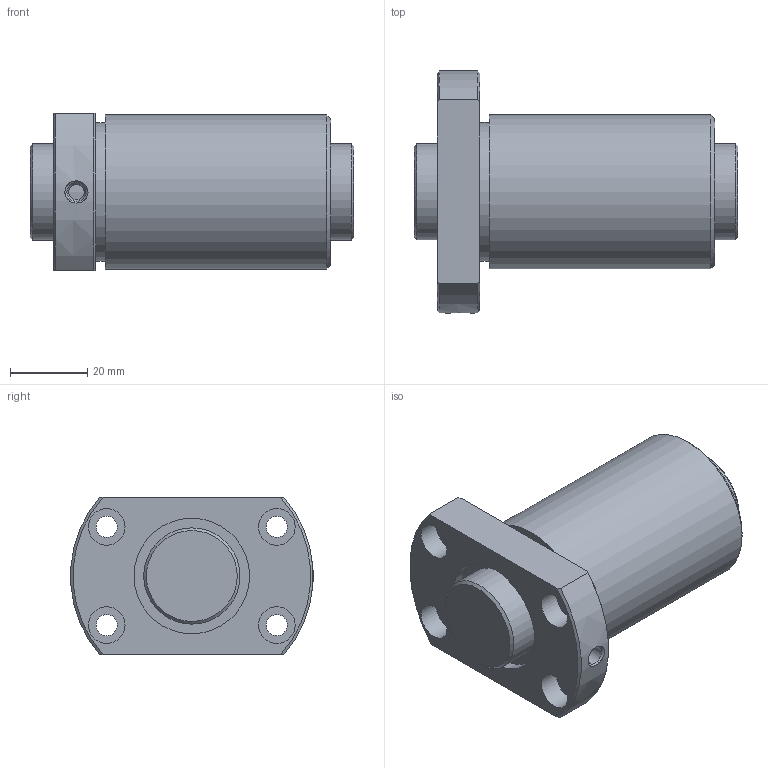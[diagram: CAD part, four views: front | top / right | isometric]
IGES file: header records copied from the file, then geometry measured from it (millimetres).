
Start section: Data from Parasolid IGES Translator 26.0.171, Copyright(c) 2006 Siemens PLM Software. All Rights Reserved.
Global section: file name: DIK2506-6RRG0+84LC0_000.igs; native system: By Siemens PLM Incorporated; preprocessor: XPlus GENERIC/IGES 26.0.171; author: Noname; organization: Noname; date: 20250113.095331; units: millimetre
Bounding box: 84 x 62.9 x 41 mm (x, y, z)
Surface area: 28128.2 mm2 (no closed solid volume)
Topology: 0 solids, 0 shells, 41 faces, 174 edges, 143 vertices
Faces by surface type: revolution 27, extrusion 14
